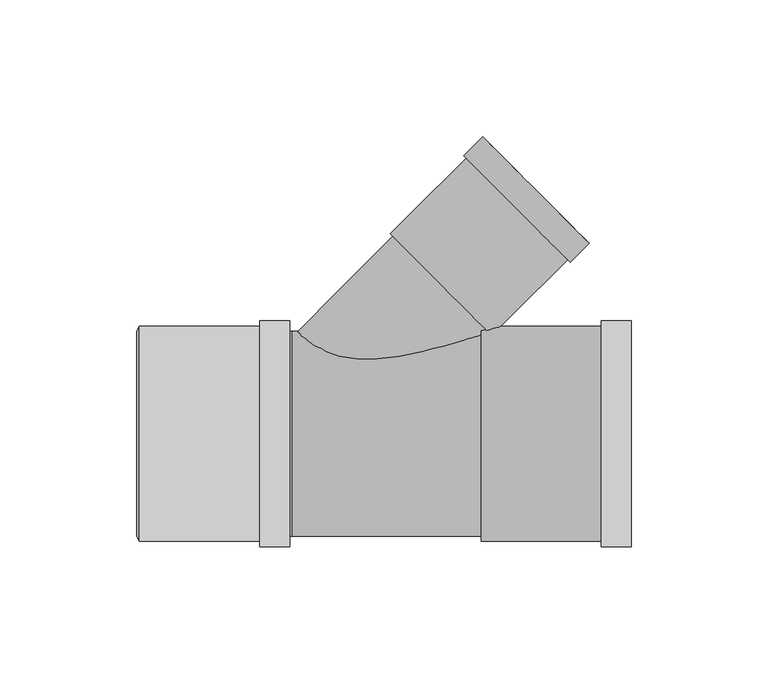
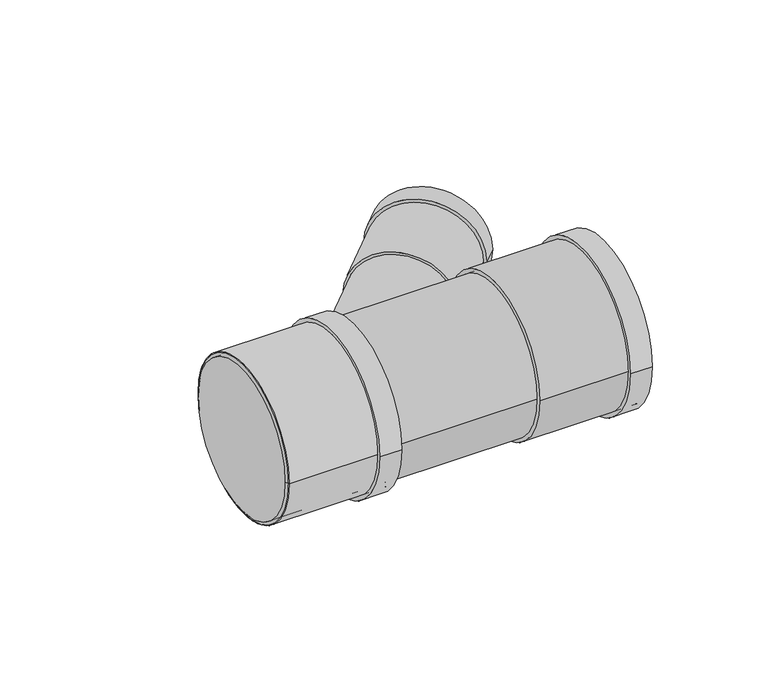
"""IFC4 building model written with IfcOpenShell, lengths in millimetres: pipe fitting geometry, Superdrain HTEA Branch : Superdrain HTEA Branch."""

from ifc_helpers import new_model, si_unit, point, frame, origin, origin_2d, place, context, project, spatial, polyline, circle_curve, trimmed, segment, composite_curve, outline, extrude, source, transform, mapped, element, save
from ifc_brep_helpers import plane_surface, cylinder_surface, revolved_surface, advanced_brep


def pipe_fitting_dde092d7(model_context):
    return source(origin(), model_context, "Body", "SolidModel", [
        extrude(outline(composite_curve([segment(trimmed(circle_curve(origin_2d(), 39.375), [point((39.375, 0.0))], [point((-39.375, 0.0))], False, "CARTESIAN"), True, "CONTINUOUS"), segment(trimmed(circle_curve(origin_2d(), 39.375), [point((-39.375, 0.0))], [point((39.375, 0.0))], False, "CARTESIAN"), True, "CONTINUOUS")], self_intersect=False), holes=[composite_curve([segment(trimmed(circle_curve(origin_2d(), 37.5), [point((37.5, 0.0))], [point((-37.5, 0.0))], True, "CARTESIAN"), True, "CONTINUOUS"), segment(trimmed(circle_curve(origin_2d(), 37.5), [point((-37.5, 0.0))], [point((37.5, 0.0))], True, "CARTESIAN"), True, "CONTINUOUS")], self_intersect=False)]), frame((-55.8, 0.0, 0.0), z_axis=(1.0, 0.0, 0.0), x_axis=(0.0, 1.0, 0.0)), (0.0, 0.0, 1.0), 55.0),
        extrude(outline(composite_curve([segment(trimmed(circle_curve(origin_2d(), 41.34375), [point((41.34375, 0.0))], [point((-41.34375, 0.0))], False, "CARTESIAN"), True, "CONTINUOUS"), segment(trimmed(circle_curve(origin_2d(), 41.34375), [point((-41.34375, 0.0))], [point((41.34375, 0.0))], False, "CARTESIAN"), True, "CONTINUOUS")], self_intersect=False), holes=[composite_curve([segment(trimmed(circle_curve(origin_2d(), 37.5), [point((37.5, 0.0))], [point((-37.5, 0.0))], True, "CARTESIAN"), True, "CONTINUOUS"), segment(trimmed(circle_curve(origin_2d(), 37.5), [point((-37.5, 0.0))], [point((37.5, 0.0))], True, "CARTESIAN"), True, "CONTINUOUS")], self_intersect=False)]), frame((-11.8, 0.0, 0.0), z_axis=(1.0, 0.0, 0.0), x_axis=(0.0, 1.0, 0.0)), (0.0, 0.0, 1.0), 11.0),
        advanced_brep(
        [(-56.8, 37.5, 0.0), (-56.8, -37.5, 0.0), (-55.8, 39.375, 0.0), (-55.8, -39.375, 0.0)],
        [
            (0, 1, circle_curve(frame((-56.8, 0.0, 0.0), z_axis=(-1.0, 0.0, 0.0), x_axis=(0.0, 1.0000000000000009, 0.0)), 37.5)),
            (1, 0, circle_curve(frame((-56.8, 0.0, 0.0), z_axis=(-1.0, 0.0, 0.0), x_axis=(0.0, -1.0000000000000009, 0.0)), 37.5)),
            (2, 3, circle_curve(frame((-55.8, 0.0, 0.0), z_axis=(1.0, 0.0, 0.0), x_axis=(0.0, -1.0000000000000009, 0.0)), 39.375)),
            (3, 2, circle_curve(frame((-55.8, 0.0, 0.0), z_axis=(1.0, 0.0, 0.0), x_axis=(0.0, 1.0000000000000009, 0.0)), 39.375)),
            (3, 1),
            (0, 2),
        ],
        [
            plane_surface(frame((-56.8, 0.0, 0.0), z_axis=(-1.0, 0.0, 0.0), x_axis=(0.0, 0.0, -1.0))),
            plane_surface(frame((-55.8, 0.0, 0.0), z_axis=(1.0, 0.0, 0.0), x_axis=(0.0, 0.0, -1.0))),
            revolved_surface(polyline([(-56.8, 37.49999999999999, 0.0), (-55.8, 39.375, 0.0)]), (-76.8, 0.0, 0.0), (1.0000000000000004, 0.0, 0.0)),
            revolved_surface(polyline([(-56.8, -37.49999999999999, 0.0), (-55.8, -39.375, 0.0)]), (-76.8, 0.0, 0.0), (1.0000000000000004, 0.0, 0.0)),
        ],
        [
            (0, [[1, 2]]),
            (1, [[3, 4]]),
            (2, [[-4, 5, -1, 6]]),
            (3, [[-3, -6, -2, -5]]),
        ],
    ),
        advanced_brep(
        [(69.2, -39.375, 0.0), (69.2, 39.375, 0.0), (124.2, -39.375, 0.0), (124.2, 39.375, 0.0), (124.2, -37.5, 0.0), (124.2, 37.5, 0.0), (70.2, -37.5, 0.0), (70.2, 37.5, 0.0)],
        [
            (0, 1, circle_curve(frame((69.2, 0.0, 0.0), z_axis=(-1.0, 0.0, 0.0), x_axis=(0.0, 1.0, 0.0)), 39.375)),
            (1, 0, circle_curve(frame((69.2, 0.0, 0.0), z_axis=(-1.0, 0.0, 0.0), x_axis=(0.0, 1.0, 0.0)), 39.375)),
            (2, 3, circle_curve(frame((124.2, 0.0, 0.0), z_axis=(1.0, 0.0, 0.0), x_axis=(0.0, 1.0, 0.0)), 39.375)),
            (3, 2, circle_curve(frame((124.2, 0.0, 0.0), z_axis=(1.0, 0.0, 0.0), x_axis=(0.0, 1.0, 0.0)), 39.375)),
            (4, 5, circle_curve(frame((124.2, 0.0, 0.0), z_axis=(-1.0, 0.0, 0.0), x_axis=(0.0, 1.0, 0.0)), 37.5)),
            (5, 4, circle_curve(frame((124.2, 0.0, 0.0), z_axis=(-1.0, 0.0, 0.0), x_axis=(0.0, 1.0, 0.0)), 37.5)),
            (0, 2),
            (3, 1),
            (6, 7, circle_curve(frame((70.2, 0.0, 0.0), z_axis=(-1.0, 0.0, 0.0), x_axis=(0.0, 1.0, 0.0)), 37.5)),
            (7, 5),
            (4, 6),
            (7, 6, circle_curve(frame((70.2, 0.0, 0.0), z_axis=(-1.0, 0.0, 0.0), x_axis=(0.0, 1.0, 0.0)), 37.5)),
        ],
        [
            plane_surface(frame((69.2, 0.0, 0.0), z_axis=(-1.0, 0.0, 0.0), x_axis=(0.0, 0.0, 1.0))),
            plane_surface(frame((124.2, 0.0, 0.0), z_axis=(1.0, 0.0, 0.0), x_axis=(0.0, 0.0, 1.0))),
            cylinder_surface(frame((69.2, 0.0, 0.0), z_axis=(-1.0, 0.0, 0.0), x_axis=(0.0, 1.0, 0.0)), 39.375),
            revolved_surface(polyline([(70.2, 37.5, 0.0), (124.2, 37.5, 0.0)]), (70.2, 0.0, 0.0), (-1.0, 0.0, 0.0)),
            plane_surface(frame((70.2, 0.0, 0.0), z_axis=(1.0, 0.0, 0.0), x_axis=(0.0, 0.0, 1.0))),
        ],
        [
            (0, [[1, 2]]),
            (1, [[3, 4], [5, 6]]),
            (2, [[-1, 7, -4, 8]]),
            (2, [[-2, -8, -3, -7]]),
            (3, [[9, 10, -5, 11]]),
            (3, [[12, -11, -6, -10]]),
            (4, [[-12, -9]]),
        ],
    ),
        extrude(outline(composite_curve([segment(trimmed(circle_curve(origin_2d(), 41.34375), [point((41.34375, 0.0))], [point((-41.34375, 0.0))], False, "CARTESIAN"), True, "CONTINUOUS"), segment(trimmed(circle_curve(origin_2d(), 41.34375), [point((-41.34375, 0.0))], [point((41.34375, 0.0))], False, "CARTESIAN"), True, "CONTINUOUS")], self_intersect=False), holes=[composite_curve([segment(trimmed(circle_curve(origin_2d(), 37.5), [point((37.5, 0.0))], [point((-37.5, 0.0))], True, "CARTESIAN"), True, "CONTINUOUS"), segment(trimmed(circle_curve(origin_2d(), 37.5), [point((-37.5, 0.0))], [point((37.5, 0.0))], True, "CARTESIAN"), True, "CONTINUOUS")], self_intersect=False)]), frame((113.2, 0.0, 0.0), z_axis=(1.0, 0.0, 0.0), x_axis=(0.0, 1.0, 0.0)), (0.0, 0.0, 1.0), 11.0),
        extrude(outline(composite_curve([segment(trimmed(circle_curve(origin_2d(), 25.0), [point((0.0, 25.0))], [point((0.0, -25.0))], False, "CARTESIAN"), True, "CONTINUOUS"), segment(trimmed(circle_curve(origin_2d(), 25.0), [point((0.0, -25.0))], [point((0.0, 25.0))], False, "CARTESIAN"), True, "CONTINUOUS")], self_intersect=False)), frame((0.0, 0.0, 0.0), z_axis=(0.7071067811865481, 0.707106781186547, 0.0), x_axis=(0.0, 0.0, 1.0)), (0.0, 0.0, 1.0), 77.2),
        extrude(outline(composite_curve([segment(trimmed(circle_curve(origin_2d(), 37.5), [point((37.5, 0.0))], [point((-37.5, 0.0))], False, "CARTESIAN"), True, "CONTINUOUS"), segment(trimmed(circle_curve(origin_2d(), 37.5), [point((-37.5, 0.0))], [point((37.5, 0.0))], False, "CARTESIAN"), True, "CONTINUOUS")], self_intersect=False)), frame((-55.8, 0.0, 0.0), z_axis=(1.0, 0.0, 0.0), x_axis=(0.0, 1.0, 0.0)), (0.0, 0.0, 1.0), 55.8),
        extrude(outline(composite_curve([segment(trimmed(circle_curve(origin_2d(), 37.5), [point((-37.5, 0.0))], [point((37.5, 0.0))], False, "CARTESIAN"), True, "CONTINUOUS"), segment(trimmed(circle_curve(origin_2d(), 37.5), [point((37.5, 0.0))], [point((-37.5, 0.0))], False, "CARTESIAN"), True, "CONTINUOUS")], self_intersect=False)), frame((0.0, 0.0, 0.0), z_axis=(1.0, 0.0, 0.0), x_axis=(0.0, 1.0, 0.0)), (0.0, 0.0, 1.0), 69.2),
        extrude(outline(composite_curve([segment(trimmed(circle_curve(origin_2d(), 27.5625), [point((0.0, 27.5625))], [point((0.0, -27.5625))], False, "CARTESIAN"), True, "CONTINUOUS"), segment(trimmed(circle_curve(origin_2d(), 27.5625), [point((0.0, -27.5625))], [point((0.0, 27.5625))], False, "CARTESIAN"), True, "CONTINUOUS")], self_intersect=False), holes=[composite_curve([segment(trimmed(circle_curve(origin_2d(), 25.0), [point((0.0, 25.0))], [point((0.0, -25.0))], True, "CARTESIAN"), True, "CONTINUOUS"), segment(trimmed(circle_curve(origin_2d(), 25.0), [point((0.0, -25.0))], [point((0.0, 25.0))], True, "CARTESIAN"), True, "CONTINUOUS")], self_intersect=False)]), frame((82.3072293, 82.3072293, 0.0), z_axis=(0.7071067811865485, 0.7071067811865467, 0.0), x_axis=(0.0, 0.0, 1.0)), (0.0, 0.0, 1.0), 9.8),
        extrude(outline(composite_curve([segment(trimmed(circle_curve(origin_2d(), 26.25), [point((0.0, 26.25))], [point((0.0, -26.25))], False, "CARTESIAN"), True, "CONTINUOUS"), segment(trimmed(circle_curve(origin_2d(), 26.25), [point((0.0, -26.25))], [point((0.0, 26.25))], False, "CARTESIAN"), True, "CONTINUOUS")], self_intersect=False), holes=[composite_curve([segment(trimmed(circle_curve(origin_2d(), 25.0), [point((0.0, 25.0))], [point((0.0, -25.0))], True, "CARTESIAN"), True, "CONTINUOUS"), segment(trimmed(circle_curve(origin_2d(), 25.0), [point((0.0, -25.0))], [point((0.0, 25.0))], True, "CARTESIAN"), True, "CONTINUOUS")], self_intersect=False)]), frame((54.5886435, 54.5886435, 0.0), z_axis=(0.707106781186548, 0.707106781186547, 0.0), x_axis=(0.0, 0.0, 1.0)), (0.0, 0.0, 1.0), 49.0),
    ])


if __name__ == "__main__":
    model = new_model("IFC4")
    model_context = context("Model", 3, world=origin())
    ifc_project = project(units=[si_unit("LENGTHUNIT", "METRE", prefix="MILLI")], contexts=[model_context])
    site = spatial("IfcSite", under=ifc_project)
    building = spatial("IfcBuilding", under=site)
    placement = place(None, origin())
    pipe_fitting_shape = pipe_fitting_dde092d7(model_context)
    element("IfcPipeFitting", 1, ObjectType="Superdrain HTEA Branch : Superdrain HTEA Branch", at=placement, inside=building, context=model_context, shape_type="MappedRepresentation", body=[
        mapped(pipe_fitting_shape, transform((0.0, 0.0, 0.0), x_axis=(1.0, 0.0, 0.0), y_axis=(0.0, 1.0, 0.0), z_axis=(0.0, 0.0, 1.0))),
    ])
    save(model, "model.ifc")
